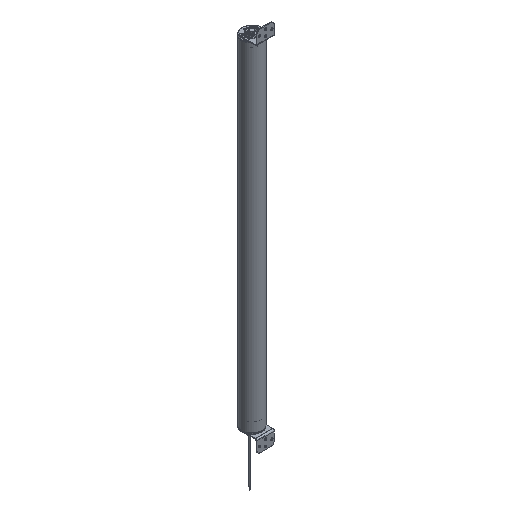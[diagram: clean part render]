
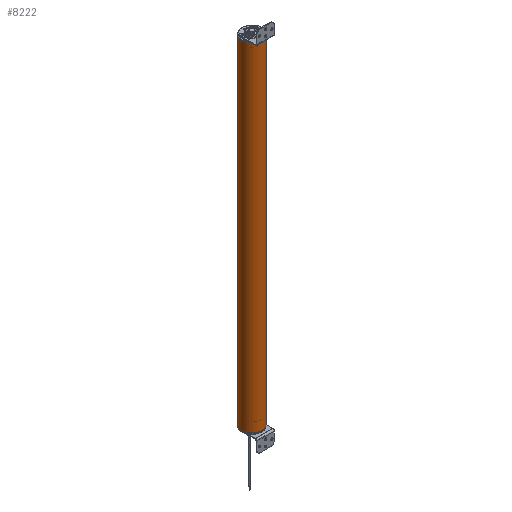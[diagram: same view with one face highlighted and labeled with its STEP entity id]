
A CAD part, isometric view. The second image highlights one B-rep face of the part: STEP entity #8222.
In plain terms, the highlighted cylindrical face has radius 40 mm (diameter 80 mm), a partial arc.
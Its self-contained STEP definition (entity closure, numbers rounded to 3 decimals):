
#886 = CARTESIAN_POINT ( 'NONE',  ( 0., 0., 1340.7 ) ) ;
#4104 = DIRECTION ( 'NONE',  ( -1., 0., 0. ) ) ;
#4416 = CARTESIAN_POINT ( 'NONE',  ( 0., 0., 0. ) ) ;
#5134 = CIRCLE ( 'NONE', #31861, 40. ) ;
#5758 = ORIENTED_EDGE ( 'NONE', *, *, #6028, .F. ) ;
#5838 = DIRECTION ( 'NONE',  ( 0., 0., -1. ) ) ;
#6028 = EDGE_CURVE ( 'NONE', #16918, #24944, #38234, .T. ) ;
#8222 = ADVANCED_FACE ( 'NONE', ( #19251 ), #26360, .T. ) ;
#8789 = CARTESIAN_POINT ( 'NONE',  ( 40., 0., 1340.7 ) ) ;
#10043 = CARTESIAN_POINT ( 'NONE',  ( 0., 0., 1340.7 ) ) ;
#10085 = DIRECTION ( 'NONE',  ( 0., 0., -1. ) ) ;
#10289 = CARTESIAN_POINT ( 'NONE',  ( -40., 0., 1340.7 ) ) ;
#11314 = EDGE_CURVE ( 'NONE', #15754, #24944, #29249, .T. ) ;
#11687 = EDGE_CURVE ( 'NONE', #16918, #26206, #5134, .T. ) ;
#11787 = LINE ( 'NONE', #39954, #14684 ) ;
#12296 = ORIENTED_EDGE ( 'NONE', *, *, #11314, .T. ) ;
#12332 = ORIENTED_EDGE ( 'NONE', *, *, #11687, .T. ) ;
#13038 = ORIENTED_EDGE ( 'NONE', *, *, #15207, .T. ) ;
#13570 = CARTESIAN_POINT ( 'NONE',  ( -40., 0., 1340.7 ) ) ;
#14420 = VECTOR ( 'NONE', #10085, 1000. ) ;
#14684 = VECTOR ( 'NONE', #5838, 1000. ) ;
#15207 = EDGE_CURVE ( 'NONE', #26206, #15754, #11787, .T. ) ;
#15754 = VERTEX_POINT ( 'NONE', #27864 ) ;
#16254 = DIRECTION ( 'NONE',  ( -1., 0., 0. ) ) ;
#16918 = VERTEX_POINT ( 'NONE', #13570 ) ;
#17887 = CARTESIAN_POINT ( 'NONE',  ( -40., 0., 0. ) ) ;
#18725 = AXIS2_PLACEMENT_3D ( 'NONE', #10043, #38800, #4104 ) ;
#19251 = FACE_OUTER_BOUND ( 'NONE', #29108, .T. ) ;
#24944 = VERTEX_POINT ( 'NONE', #17887 ) ;
#26206 = VERTEX_POINT ( 'NONE', #8789 ) ;
#26360 = CYLINDRICAL_SURFACE ( 'NONE', #18725, 40. ) ;
#27285 = DIRECTION ( 'NONE',  ( 0., 0., 1. ) ) ;
#27864 = CARTESIAN_POINT ( 'NONE',  ( 40., 0., 0. ) ) ;
#29108 = EDGE_LOOP ( 'NONE', ( #12332, #13038, #12296, #5758 ) ) ;
#29249 = CIRCLE ( 'NONE', #39011, 40. ) ;
#31861 = AXIS2_PLACEMENT_3D ( 'NONE', #886, #38463, #16254 ) ;
#36454 = DIRECTION ( 'NONE',  ( -1., 0., 0. ) ) ;
#38234 = LINE ( 'NONE', #10289, #14420 ) ;
#38463 = DIRECTION ( 'NONE',  ( 0., 0., -1. ) ) ;
#38800 = DIRECTION ( 'NONE',  ( 0., 0., -1. ) ) ;
#39011 = AXIS2_PLACEMENT_3D ( 'NONE', #4416, #27285, #36454 ) ;
#39954 = CARTESIAN_POINT ( 'NONE',  ( 40., 0., 1340.7 ) ) ;
